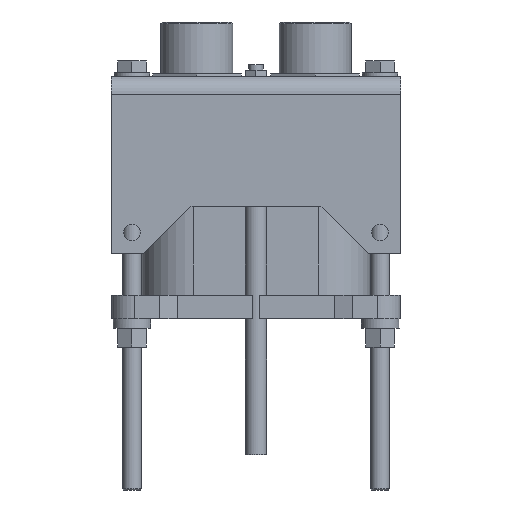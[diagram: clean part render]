
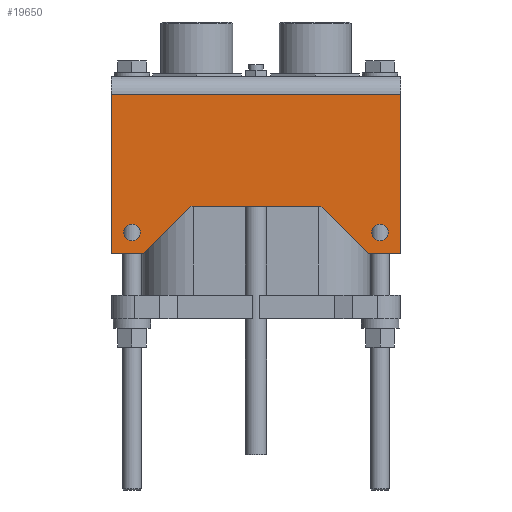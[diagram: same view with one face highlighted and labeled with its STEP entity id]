
A CAD part, front view. The second image highlights one B-rep face of the part: STEP entity #19650.
In plain terms, the highlighted planar face has unit normal (0, -1, 0).
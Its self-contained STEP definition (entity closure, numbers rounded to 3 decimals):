
#19381=CARTESIAN_POINT('',(95.,-392.,-117.));
#19382=VERTEX_POINT('',#19381);
#19389=CARTESIAN_POINT('',(55.,-392.,-77.));
#19390=VERTEX_POINT('',#19389);
#19391=CARTESIAN_POINT('',(55.,-392.,-77.));
#19392=DIRECTION('',(0.707,0.0,-0.707));
#19393=VECTOR('',#19392,56.569);
#19394=LINE('',#19391,#19393);
#19395=EDGE_CURVE('',#19390,#19382,#19394,.T.);
#19420=CARTESIAN_POINT('',(-55.,-392.,-77.));
#19421=VERTEX_POINT('',#19420);
#19422=CARTESIAN_POINT('',(-55.,-392.,-77.));
#19423=DIRECTION('',(1.0,0.0,0.0));
#19424=VECTOR('',#19423,110.);
#19425=LINE('',#19422,#19424);
#19426=EDGE_CURVE('',#19421,#19390,#19425,.T.);
#19451=CARTESIAN_POINT('',(-95.0,-392.,-117.));
#19452=VERTEX_POINT('',#19451);
#19453=CARTESIAN_POINT('',(-95.0,-392.,-117.));
#19454=DIRECTION('',(0.707,0.0,0.707));
#19455=VECTOR('',#19454,56.569);
#19456=LINE('',#19453,#19455);
#19457=EDGE_CURVE('',#19452,#19421,#19456,.T.);
#19484=CARTESIAN_POINT('',(-98.0,-392.,-99.));
#19485=VERTEX_POINT('',#19484);
#19486=CARTESIAN_POINT('',(-105.0,-392.0,-99.));
#19487=DIRECTION('',(0.0,1.0,0.0));
#19488=DIRECTION('',(-1.0,0.0,0.0));
#19489=AXIS2_PLACEMENT_3D('',#19486,#19487,#19488);
#19490=CIRCLE('',#19489,7.);
#19491=EDGE_CURVE('',#19485,#19485,#19490,.T.);
#19512=CARTESIAN_POINT('',(112.,-392.,-99.));
#19513=VERTEX_POINT('',#19512);
#19514=CARTESIAN_POINT('',(105.,-392.0,-99.));
#19515=DIRECTION('',(0.0,1.0,0.0));
#19516=DIRECTION('',(-1.0,0.0,0.0));
#19517=AXIS2_PLACEMENT_3D('',#19514,#19515,#19516);
#19518=CIRCLE('',#19517,7.);
#19519=EDGE_CURVE('',#19513,#19513,#19518,.T.);
#19530=CARTESIAN_POINT('',(-122.5,-392.0,-117.));
#19531=VERTEX_POINT('',#19530);
#19532=CARTESIAN_POINT('',(-122.5,-392.0,-117.));
#19533=DIRECTION('',(1.0,0.0,0.0));
#19534=VECTOR('',#19533,27.5);
#19535=LINE('',#19532,#19534);
#19536=EDGE_CURVE('',#19531,#19452,#19535,.T.);
#19603=CARTESIAN_POINT('',(0.0,-392.0,-117.));
#19604=DIRECTION('',(0.0,-1.0,0.0));
#19605=DIRECTION('',(0.0,0.0,-1.0));
#19606=AXIS2_PLACEMENT_3D('',#19603,#19604,#19605);
#19607=PLANE('',#19606);
#19608=ORIENTED_EDGE('',*,*,#19457,.T.);
#19609=ORIENTED_EDGE('',*,*,#19426,.T.);
#19610=ORIENTED_EDGE('',*,*,#19395,.T.);
#19611=CARTESIAN_POINT('',(122.5,-392.0,-117.));
#19612=VERTEX_POINT('',#19611);
#19613=CARTESIAN_POINT('',(95.,-392.,-117.));
#19614=DIRECTION('',(1.0,0.0,0.0));
#19615=VECTOR('',#19614,27.5);
#19616=LINE('',#19613,#19615);
#19617=EDGE_CURVE('',#19382,#19612,#19616,.T.);
#19618=ORIENTED_EDGE('',*,*,#19617,.T.);
#19619=CARTESIAN_POINT('',(122.5,-392.,18.));
#19620=VERTEX_POINT('',#19619);
#19621=CARTESIAN_POINT('',(122.5,-392.0,-117.));
#19622=DIRECTION('',(0.0,0.0,1.0));
#19623=VECTOR('',#19622,135.0);
#19624=LINE('',#19621,#19623);
#19625=EDGE_CURVE('',#19612,#19620,#19624,.T.);
#19626=ORIENTED_EDGE('',*,*,#19625,.T.);
#19627=CARTESIAN_POINT('',(-122.5,-392.,18.));
#19628=VERTEX_POINT('',#19627);
#19629=CARTESIAN_POINT('',(-122.5,-392.,18.));
#19630=DIRECTION('',(1.0,0.0,0.0));
#19631=VECTOR('',#19630,245.);
#19632=LINE('',#19629,#19631);
#19633=EDGE_CURVE('',#19628,#19620,#19632,.T.);
#19634=ORIENTED_EDGE('',*,*,#19633,.F.);
#19635=CARTESIAN_POINT('',(-122.5,-392.,18.));
#19636=DIRECTION('',(0.0,0.0,-1.0));
#19637=VECTOR('',#19636,135.0);
#19638=LINE('',#19635,#19637);
#19639=EDGE_CURVE('',#19628,#19531,#19638,.T.);
#19640=ORIENTED_EDGE('',*,*,#19639,.T.);
#19641=ORIENTED_EDGE('',*,*,#19536,.T.);
#19642=EDGE_LOOP('',(#19608,#19609,#19610,#19618,#19626,#19634,#19640,#19641));
#19643=FACE_OUTER_BOUND('',#19642,.T.);
#19644=ORIENTED_EDGE('',*,*,#19519,.T.);
#19645=EDGE_LOOP('',(#19644));
#19646=FACE_BOUND('',#19645,.T.);
#19647=ORIENTED_EDGE('',*,*,#19491,.T.);
#19648=EDGE_LOOP('',(#19647));
#19649=FACE_BOUND('',#19648,.T.);
#19650=ADVANCED_FACE('',(#19643,#19646,#19649),#19607,.T.);
